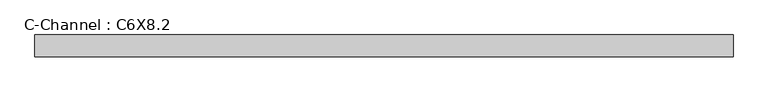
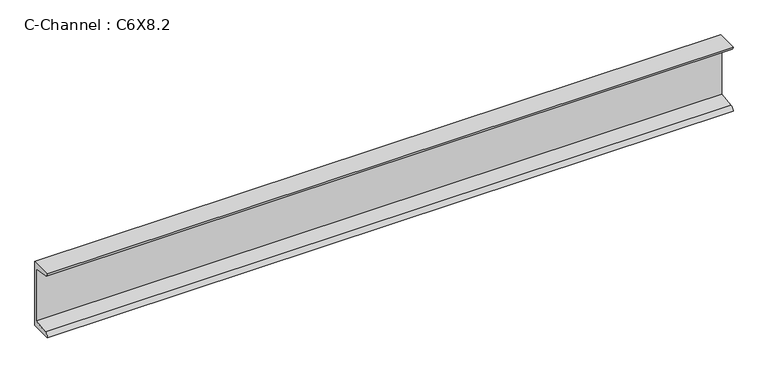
"""IFC4 building model written with IfcOpenShell, lengths in millimetres: beam geometry, C-Channel : C6X8.2."""

import ifcopenshell
import ifcopenshell.guid

model = None  # the IFC model being written
_history = None  # IfcOwnerHistory: only IFC2X3 demands one
_inside = {}  # id of a spatial element -> (the spatial element, [elements in it])
_under = {}  # id of a project, library or spatial element -> (it, [spatial elements below it])
_declared = {}  # id of a project -> (the project, [libraries it declares])
_typed = {}  # id of a type object -> (the type object, [elements of that type])
_made_of = {}  # id of a material, layer set ... -> (it, [elements and type objects made of it])


def new_model(schema):
    """Start an empty IFC model of exactly this schema.

    Asked for "IFC4X3", IfcOpenShell would pick the latest addendum, in which some entities
    have other attributes; the version numbers below select the first issue.
    IFC2X3 requires an IfcOwnerHistory on every rooted entity: one is made here for all.
    """
    global model, _history
    if schema == "IFC4X3":
        model = ifcopenshell.file(schema_version=(4, 3, 0, 0))
    else:
        model = ifcopenshell.file(schema=schema)
    _inside.clear()
    _under.clear()
    _declared.clear()
    _typed.clear()
    _made_of.clear()
    _history = None
    if model.schema == "IFC2X3":
        org = make("IfcOrganization", Name="unknown")
        user = make(
            "IfcPersonAndOrganization",
            ThePerson=make("IfcPerson", FamilyName="unknown"),
            TheOrganization=org,
        )
        app = make(
            "IfcApplication",
            ApplicationDeveloper=org,
            Version="unknown",
            ApplicationFullName="unknown",
            ApplicationIdentifier="unknown",
        )
        _history = make(
            "IfcOwnerHistory",
            OwningUser=user,
            OwningApplication=app,
            ChangeAction="ADDED",
            CreationDate=0,
        )
    return model


def make(cls, **values):
    """One entity of the class cls with the attributes given. An attribute that is None is left unset."""
    return model.create_entity(
        cls, **{name: value for name, value in values.items() if value is not None}
    )


def rooted(cls, **values):
    """An entity with a GlobalId (a new one), such as an element, a storey or a relation."""
    return make(cls, GlobalId=ifcopenshell.guid.new(), OwnerHistory=_history, **values)


def si_unit(unit_type, name, prefix=None):
    """IfcSIUnit, for example si_unit("LENGTHUNIT", "METRE", prefix="MILLI")."""
    return make("IfcSIUnit", UnitType=unit_type, Prefix=prefix, Name=name)


def assignment(units):
    """IfcUnitAssignment: the units of a project."""
    return None if units is None else make("IfcUnitAssignment", Units=units)


def point(xyz):
    """IfcCartesianPoint."""
    return None if xyz is None else make("IfcCartesianPoint", Coordinates=xyz)


def direction(xyz):
    """IfcDirection."""
    return None if xyz is None else make("IfcDirection", DirectionRatios=xyz)


def frame(location, z_axis=None, x_axis=None):
    """IfcAxis2Placement3D, a coordinate frame: its origin and axes. An axis left out is left unset."""
    return make(
        "IfcAxis2Placement3D",
        Location=point(location),
        Axis=direction(z_axis),
        RefDirection=direction(x_axis),
    )


def frame_2d(location, x_axis=None):
    """IfcAxis2Placement2D, a coordinate frame in the plane: its origin and x axis."""
    return make(
        "IfcAxis2Placement2D", Location=point(location), RefDirection=direction(x_axis)
    )


def origin():
    """The frame at (0, 0, 0) with its axes left unset."""
    return frame((0.0, 0.0, 0.0))


def place(relative_to, where):
    """IfcLocalPlacement: puts the frame where relative to a parent placement (None: the world)."""
    return make(
        "IfcLocalPlacement", PlacementRelTo=relative_to, RelativePlacement=where
    )


def context(
    kind, dimensions, precision=None, world=None, true_north=None, identifier=None
):
    """IfcGeometricRepresentationContext, for example the 3D "Model" context."""
    return make(
        "IfcGeometricRepresentationContext",
        ContextIdentifier=identifier,
        ContextType=kind,
        CoordinateSpaceDimension=dimensions,
        Precision=precision,
        WorldCoordinateSystem=world,
        TrueNorth=true_north,
    )


def project(units=None, contexts=None):
    """IfcProject with its units and contexts."""
    return rooted(
        "IfcProject",
        Name="project",
        RepresentationContexts=contexts,
        UnitsInContext=assignment(units),
    )


def spatial(cls, under=None, at=None, **own):
    """A site, building, storey or space (cls), placed at a placement, below another one or the project."""
    s = rooted(cls, ObjectPlacement=at, **own)
    if under is not None:
        _under.setdefault(under.id(), (under, []))[1].append(s)
    return s


def polyline(points):
    """IfcPolyline through the points."""
    return make("IfcPolyline", Points=[point(p) for p in points])


def circle_curve(where, radius):
    """IfcCircle in the frame where."""
    return make("IfcCircle", Position=where, Radius=radius)


def trimmed(basis, trim1, trim2, sense, master):
    """IfcTrimmedCurve: the piece of a basis curve between two trims."""
    return make(
        "IfcTrimmedCurve",
        BasisCurve=basis,
        Trim1=trim1,
        Trim2=trim2,
        SenseAgreement=sense,
        MasterRepresentation=master,
    )


def segment(curve, same_sense, transition):
    """IfcCompositeCurveSegment."""
    return make(
        "IfcCompositeCurveSegment",
        Transition=transition,
        SameSense=same_sense,
        ParentCurve=curve,
    )


def composite_curve(segments, self_intersect=None):
    """IfcCompositeCurve: segments joined end to end."""
    return make("IfcCompositeCurve", Segments=segments, SelfIntersect=self_intersect)


def outline(outer, holes=None, kind="AREA"):
    """IfcArbitraryClosedProfileDef: a profile drawn as a closed curve; with holes, ...WithVoids."""
    if holes is None:
        return make("IfcArbitraryClosedProfileDef", ProfileType=kind, OuterCurve=outer)
    return make(
        "IfcArbitraryProfileDefWithVoids",
        ProfileType=kind,
        OuterCurve=outer,
        InnerCurves=holes,
    )


def extrude(swept, where, along, depth):
    """IfcExtrudedAreaSolid: the profile swept, set in the frame where, extruded along a direction by depth."""
    return make(
        "IfcExtrudedAreaSolid",
        SweptArea=swept,
        Position=where,
        ExtrudedDirection=direction(along),
        Depth=depth,
    )


def shape(context_of_items, identifier, shape_type, items):
    """IfcShapeRepresentation: the items that make up one representation, for example the "Body"."""
    return make(
        "IfcShapeRepresentation",
        ContextOfItems=context_of_items,
        RepresentationIdentifier=identifier,
        RepresentationType=shape_type,
        Items=items,
    )


def source(mapping_origin, context_of_items, identifier, shape_type, items):
    """IfcRepresentationMap: a shape defined once, which mapped items show again and again."""
    return make(
        "IfcRepresentationMap",
        MappingOrigin=mapping_origin,
        MappedRepresentation=shape(context_of_items, identifier, shape_type, items),
    )


def transform(
    local_origin,
    x_axis=None,
    y_axis=None,
    z_axis=None,
    scale=None,
    scale2=None,
    scale3=None,
    uniform=True,
):
    """IfcCartesianTransformationOperator3D, or its non-uniform kind. x_axis, y_axis, z_axis: its Axis1, 2, 3."""
    if uniform:
        return make(
            "IfcCartesianTransformationOperator3D",
            Axis1=direction(x_axis),
            Axis2=direction(y_axis),
            LocalOrigin=point(local_origin),
            Scale=scale,
            Axis3=direction(z_axis),
        )
    return make(
        "IfcCartesianTransformationOperator3DnonUniform",
        Axis1=direction(x_axis),
        Axis2=direction(y_axis),
        LocalOrigin=point(local_origin),
        Scale=scale,
        Axis3=direction(z_axis),
        Scale2=scale2,
        Scale3=scale3,
    )


def mapped(mapping_source, mapping_target):
    """IfcMappedItem: shows the shape of a source again, moved by a transform."""
    return make(
        "IfcMappedItem", MappingSource=mapping_source, MappingTarget=mapping_target
    )


def made_of(thing, what):
    """Note that an element or type object is made of a material, layer set ...; save() writes the relation."""
    if what is not None:
        _made_of.setdefault(what.id(), (what, []))[1].append(thing)
    return thing


def element(
    cls,
    number,
    at=None,
    inside=None,
    cuts=None,
    type_object=None,
    material=None,
    context=None,
    identifier="Body",
    shape_type=None,
    held_by="IfcProductDefinitionShape",
    body=None,
    shapes=None,
    **own,
):
    """One element of the class cls, such as IfcWall. Its Tag is "e" and its number.

    at: its placement. inside: the storey or other place that contains it. cuts: it is an
    opening in that element (IfcRelVoidsElement). A single representation is given by context,
    identifier, shape_type and body (its items); several are given by shapes. held_by: the class
    of the entity that holds the representations. save() writes the other relations.
    """
    e = rooted(cls, Tag="e%d" % number, ObjectPlacement=at, **own)
    if body is not None:
        shapes = [shape(context, identifier, shape_type, body)]
    if shapes is not None:
        e.Representation = make(held_by, Representations=shapes)
    if inside is not None:
        _inside.setdefault(inside.id(), (inside, []))[1].append(e)
    if cuts is not None:
        rooted(
            "IfcRelVoidsElement", RelatingBuildingElement=cuts, RelatedOpeningElement=e
        )
    if type_object is not None:
        _typed.setdefault(type_object.id(), (type_object, []))[1].append(e)
    return made_of(e, material)


def aggregate(whole, parts):
    """IfcRelAggregates: a whole, such as a stair, and the parts it consists of."""
    return rooted("IfcRelAggregates", RelatingObject=whole, RelatedObjects=parts)


def save(model, path):
    """Write the relations noted so far, then the file.

    IfcRelAggregates (storeys below a building ...), IfcRelContainedInSpatialStructure (elements
    in a storey), IfcRelDefinesByType, IfcRelAssociatesMaterial and IfcRelDeclares: one each for
    every whole, place, type object, material and project.
    """
    for whole, parts in _under.values():
        aggregate(whole, parts)
    for where, things in _inside.values():
        rooted(
            "IfcRelContainedInSpatialStructure",
            RelatedElements=things,
            RelatingStructure=where,
        )
    for kind, things in _typed.values():
        rooted("IfcRelDefinesByType", RelatedObjects=things, RelatingType=kind)
    for what, things in _made_of.values():
        rooted("IfcRelAssociatesMaterial", RelatedObjects=things, RelatingMaterial=what)
    for by, libraries in _declared.values():
        rooted("IfcRelDeclares", RelatingContext=by, RelatedDefinitions=libraries)
    model.write(path)


def c_channel_c6x8_2_52b4a7a8(model_context):
    return source(origin(), model_context, "Body", "SweptSolid", [
        extrude(outline(composite_curve([segment(polyline([(13.0048, 76.2), (13.0048, -76.2), (-35.7632, -76.2)]), True, "CONTINUOUS"), segment(trimmed(circle_curve(frame_2d((-27.051, -76.2)), 8.7122), [point((-35.7632, -76.2))], [point((-27.051, -67.4878))], False, "CARTESIAN"), True, "CONTINUOUS"), segment(polyline([(-27.051, -67.4878), (7.9248, -61.9481775), (7.9248, 61.9481775), (-27.051, 67.4878)]), True, "CONTINUOUS"), segment(trimmed(circle_curve(frame_2d((-27.051, 76.2)), 8.7122), [point((-27.051, 67.4878))], [point((-35.7632, 76.2))], False, "CARTESIAN"), True, "CONTINUOUS"), segment(polyline([(-35.7632, 76.2), (13.0048, 76.2)]), True, "CONTINUOUS")], self_intersect=False)), frame((-700.3696718, 0.0, 0.0), z_axis=(1.0, 0.0, 0.0), x_axis=(0.0, 1.0, 0.0)), (0.0, 0.0, 1.0), 1547.985361),
    ])


if __name__ == "__main__":
    model = new_model("IFC4")
    model_context = context("Model", 3, world=origin())
    ifc_project = project(units=[si_unit("LENGTHUNIT", "METRE", prefix="MILLI")], contexts=[model_context])
    site = spatial("IfcSite", under=ifc_project)
    building = spatial("IfcBuilding", under=site)
    placement = place(None, origin())
    c_channel_c6x8_2_shape = c_channel_c6x8_2_52b4a7a8(model_context)
    element("IfcBeam", 1, ObjectType="C-Channel : C6X8.2", at=placement, inside=building, context=model_context, shape_type="MappedRepresentation", body=[
        mapped(c_channel_c6x8_2_shape, transform((0.0, 0.0, 0.0), x_axis=(1.0, 0.0, 0.0), y_axis=(0.0, 1.0, 0.0), z_axis=(0.0, 0.0, 1.0))),
    ])
    save(model, "model.ifc")
